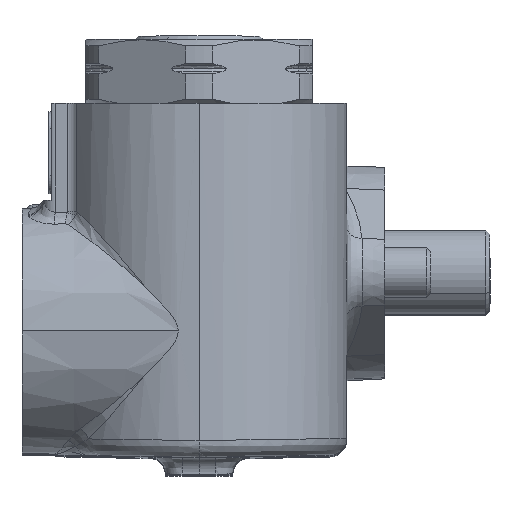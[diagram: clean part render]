
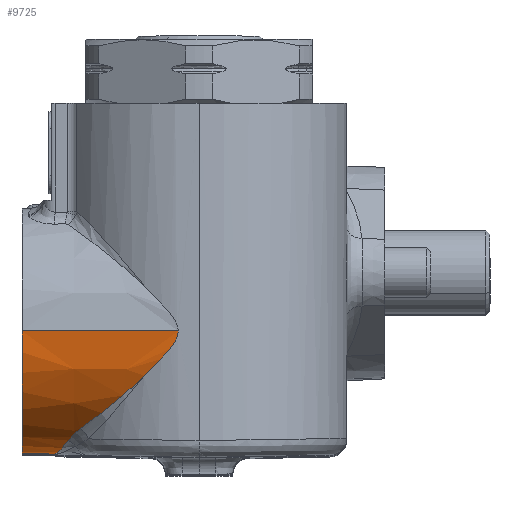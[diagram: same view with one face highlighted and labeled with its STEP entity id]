
A CAD part, top view. The second image highlights one B-rep face of the part: STEP entity #9725.
In plain terms, the highlighted conical face has half-angle 1 degrees and reference radius 14.5 mm.
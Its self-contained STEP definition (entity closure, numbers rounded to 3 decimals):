
#202 = CARTESIAN_POINT ( 'NONE',  ( -15., -7., 56.5 ) ) ;
#220 = CARTESIAN_POINT ( 'NONE',  ( -15., -7., 71. ) ) ;
#241 = DIRECTION ( 'NONE',  ( 1., 0., 0. ) ) ;
#784 = DIRECTION ( 'NONE',  ( -1., 0.017, 0. ) ) ;
#1257 = CARTESIAN_POINT ( 'NONE',  ( -9.89, -20.47, 62.134 ) ) ;
#1493 = CARTESIAN_POINT ( 'NONE',  ( -9.704, -20.245, 62.651 ) ) ;
#1813 = CARTESIAN_POINT ( 'NONE',  ( -1.754, -13.532, 69.72 ) ) ;
#2531 = CARTESIAN_POINT ( 'NONE',  ( -8.383, -18.815, 65.113 ) ) ;
#2660 = VERTEX_POINT ( 'NONE', #13427 ) ;
#4909 = CONICAL_SURFACE ( 'NONE', #15940, 14.5, 0.017 ) ;
#5975 = VECTOR ( 'NONE', #784, 1000. ) ;
#6111 = B_SPLINE_CURVE_WITH_KNOTS ( 'NONE', 3,
 ( #16639, #46425, #38600, #17122, #35273, #28522, #16891, #13321, #10239, #24482, #24702, #39057, #31205, #46651 ),
 .UNSPECIFIED., .F., .F.,
 ( 4, 2, 2, 2, 2, 2, 4 ),
 ( 0.023, 0.024, 0.025, 0.026, 0.026, 0.028, 0.03 ),
 .UNSPECIFIED. ) ;
#6753 = VECTOR ( 'NONE', #32009, 1000. ) ;
#8139 = ORIENTED_EDGE ( 'NONE', *, *, #42331, .T. ) ;
#8476 = CARTESIAN_POINT ( 'NONE',  ( -9.159, -19.535, 64.002 ) ) ;
#8520 = VERTEX_POINT ( 'NONE', #36483 ) ;
#9365 = EDGE_CURVE ( 'NONE', #26903, #42765, #6111, .T. ) ;
#9725 = ADVANCED_FACE ( 'NONE', ( #32540 ), #4909, .T. ) ;
#10239 = CARTESIAN_POINT ( 'NONE',  ( 2.043, -9.715, 71.048 ) ) ;
#10281 = CARTESIAN_POINT ( 'NONE',  ( -0.474, -12.326, 70.259 ) ) ;
#11346 = CARTESIAN_POINT ( 'NONE',  ( -8.055, -18.576, 65.432 ) ) ;
#11558 = B_SPLINE_CURVE_WITH_KNOTS ( 'NONE', 3,
 ( #26941, #41531, #19826, #34403, #45800, #13391, #31039, #1813, #24072, #16234 ),
 .UNSPECIFIED., .F., .F.,
 ( 4, 2, 2, 2, 4 ),
 ( 0., 0.003, 0.006, 0.008, 0.011 ),
 .UNSPECIFIED. ) ;
#12013 = CARTESIAN_POINT ( 'NONE',  ( -9.36, -19.768, 63.595 ) ) ;
#12456 = ORIENTED_EDGE ( 'NONE', *, *, #45197, .F. ) ;
#12892 = EDGE_CURVE ( 'NONE', #19691, #26903, #46303, .T. ) ;
#12957 = CARTESIAN_POINT ( 'NONE',  ( -8.672, -19.06, 64.76 ) ) ;
#13321 = CARTESIAN_POINT ( 'NONE',  ( 2.228, -9.501, 71.09 ) ) ;
#13391 = CARTESIAN_POINT ( 'NONE',  ( -3.695, -15.195, 68.718 ) ) ;
#13427 = CARTESIAN_POINT ( 'NONE',  ( -9.52, -19.989, 63.157 ) ) ;
#13673 = CARTESIAN_POINT ( 'NONE',  ( -15., -7., 71. ) ) ;
#14460 = DIRECTION ( 'NONE',  ( 0., 0., -1. ) ) ;
#14615 = ORIENTED_EDGE ( 'NONE', *, *, #9365, .F. ) ;
#15494 = EDGE_CURVE ( 'NONE', #19691, #16277, #17929, .T. ) ;
#15677 = CARTESIAN_POINT ( 'NONE',  ( -11.103, -21.568, 57.088 ) ) ;
#15940 = AXIS2_PLACEMENT_3D ( 'NONE', #202, #40428, #21559 ) ;
#16234 = CARTESIAN_POINT ( 'NONE',  ( -0.474, -12.326, 70.259 ) ) ;
#16277 = VERTEX_POINT ( 'NONE', #47049 ) ;
#16639 = CARTESIAN_POINT ( 'NONE',  ( 3.519, -7., 71.323 ) ) ;
#16891 = CARTESIAN_POINT ( 'NONE',  ( 2.586, -9.06, 71.165 ) ) ;
#17122 = CARTESIAN_POINT ( 'NONE',  ( 3.225, -8.108, 71.279 ) ) ;
#17204 = AXIS2_PLACEMENT_3D ( 'NONE', #46854, #241, #14460 ) ;
#17929 = CIRCLE ( 'NONE', #17204, 14.5 ) ;
#18262 = CARTESIAN_POINT ( 'NONE',  ( 3.519, -7., 71.323 ) ) ;
#19691 = VERTEX_POINT ( 'NONE', #220 ) ;
#19826 = CARTESIAN_POINT ( 'NONE',  ( -6.863, -17.695, 66.523 ) ) ;
#20038 = ORIENTED_EDGE ( 'NONE', *, *, #40660, .T. ) ;
#21559 = DIRECTION ( 'NONE',  ( 0., 0., 1. ) ) ;
#22482 = CARTESIAN_POINT ( 'NONE',  ( -9.52, -19.989, 63.157 ) ) ;
#23066 = CARTESIAN_POINT ( 'NONE',  ( -11.198, -21.566, 56.5 ) ) ;
#24072 = CARTESIAN_POINT ( 'NONE',  ( -1.107, -12.947, 70.006 ) ) ;
#24115 = B_SPLINE_CURVE_WITH_KNOTS ( 'NONE', 3,
 ( #22482, #12013, #8476, #12957, #2531, #46045 ),
 .UNSPECIFIED., .F., .F.,
 ( 4, 2, 4 ),
 ( 0., 0.002, 0.003 ),
 .UNSPECIFIED. ) ;
#24482 = CARTESIAN_POINT ( 'NONE',  ( 1.48, -10.346, 70.91 ) ) ;
#24702 = CARTESIAN_POINT ( 'NONE',  ( 1.093, -10.752, 70.803 ) ) ;
#26121 = ORIENTED_EDGE ( 'NONE', *, *, #30129, .T. ) ;
#26903 = VERTEX_POINT ( 'NONE', #18262 ) ;
#26941 = CARTESIAN_POINT ( 'NONE',  ( -8.055, -18.576, 65.432 ) ) ;
#28522 = CARTESIAN_POINT ( 'NONE',  ( 2.76, -8.831, 71.198 ) ) ;
#30129 = EDGE_CURVE ( 'NONE', #38043, #42765, #11558, .T. ) ;
#30244 = CARTESIAN_POINT ( 'NONE',  ( -9.52, -19.989, 63.157 ) ) ;
#30714 = CARTESIAN_POINT ( 'NONE',  ( -10.678, -21.297, 59.395 ) ) ;
#31039 = CARTESIAN_POINT ( 'NONE',  ( -3.048, -14.656, 69.076 ) ) ;
#31205 = CARTESIAN_POINT ( 'NONE',  ( -0.08, -11.94, 70.415 ) ) ;
#32009 = DIRECTION ( 'NONE',  ( 1., 0., 0.017 ) ) ;
#32540 = FACE_OUTER_BOUND ( 'NONE', #42312, .T. ) ;
#32640 = CARTESIAN_POINT ( 'NONE',  ( -17., -21.465, 56.5 ) ) ;
#33845 = CARTESIAN_POINT ( 'NONE',  ( -10.396, -21.028, 60.517 ) ) ;
#34403 = CARTESIAN_POINT ( 'NONE',  ( -5.619, -16.739, 67.483 ) ) ;
#34555 = CARTESIAN_POINT ( 'NONE',  ( -10.236, -20.861, 61.068 ) ) ;
#35273 = CARTESIAN_POINT ( 'NONE',  ( 3.08, -8.355, 71.255 ) ) ;
#36156 = B_SPLINE_CURVE_WITH_KNOTS ( 'NONE', 3,
 ( #23066, #15677, #45228, #38360, #30714, #33845, #34555, #1257, #1493, #30244 ),
 .UNSPECIFIED., .F., .F.,
 ( 4, 2, 2, 2, 4 ),
 ( 0., 0.002, 0.004, 0.005, 0.007 ),
 .UNSPECIFIED. ) ;
#36483 = CARTESIAN_POINT ( 'NONE',  ( -11.198, -21.566, 56.5 ) ) ;
#36683 = ORIENTED_EDGE ( 'NONE', *, *, #12892, .F. ) ;
#38043 = VERTEX_POINT ( 'NONE', #11346 ) ;
#38360 = CARTESIAN_POINT ( 'NONE',  ( -10.798, -21.398, 58.826 ) ) ;
#38600 = CARTESIAN_POINT ( 'NONE',  ( 3.448, -7.576, 71.313 ) ) ;
#39057 = CARTESIAN_POINT ( 'NONE',  ( 0.313, -11.549, 70.555 ) ) ;
#40273 = LINE ( 'NONE', #32640, #5975 ) ;
#40428 = DIRECTION ( 'NONE',  ( 1., 0., 0. ) ) ;
#40660 = EDGE_CURVE ( 'NONE', #8520, #2660, #36156, .T. ) ;
#41531 = CARTESIAN_POINT ( 'NONE',  ( -7.469, -18.149, 66.002 ) ) ;
#42312 = EDGE_LOOP ( 'NONE', ( #36683, #42898, #12456, #20038, #8139, #26121, #14615 ) ) ;
#42331 = EDGE_CURVE ( 'NONE', #2660, #38043, #24115, .T. ) ;
#42765 = VERTEX_POINT ( 'NONE', #10281 ) ;
#42898 = ORIENTED_EDGE ( 'NONE', *, *, #15494, .T. ) ;
#45197 = EDGE_CURVE ( 'NONE', #8520, #16277, #40273, .T. ) ;
#45228 = CARTESIAN_POINT ( 'NONE',  ( -11.01, -21.534, 57.672 ) ) ;
#45800 = CARTESIAN_POINT ( 'NONE',  ( -4.98, -16.236, 67.923 ) ) ;
#46045 = CARTESIAN_POINT ( 'NONE',  ( -8.055, -18.576, 65.432 ) ) ;
#46303 = LINE ( 'NONE', #13673, #6753 ) ;
#46425 = CARTESIAN_POINT ( 'NONE',  ( 3.519, -7.29, 71.323 ) ) ;
#46651 = CARTESIAN_POINT ( 'NONE',  ( -0.474, -12.326, 70.259 ) ) ;
#46854 = CARTESIAN_POINT ( 'NONE',  ( -15., -7., 56.5 ) ) ;
#47049 = CARTESIAN_POINT ( 'NONE',  ( -15., -21.5, 56.5 ) ) ;
